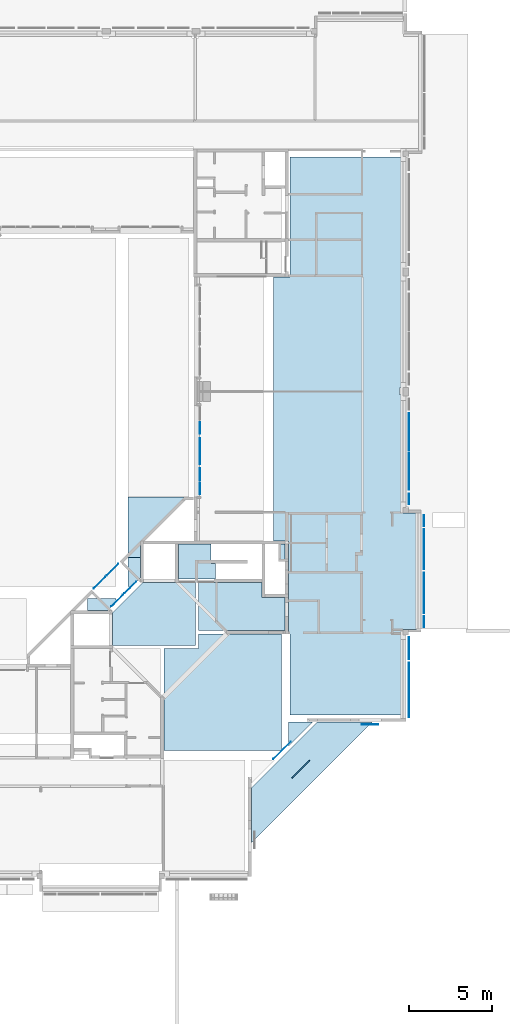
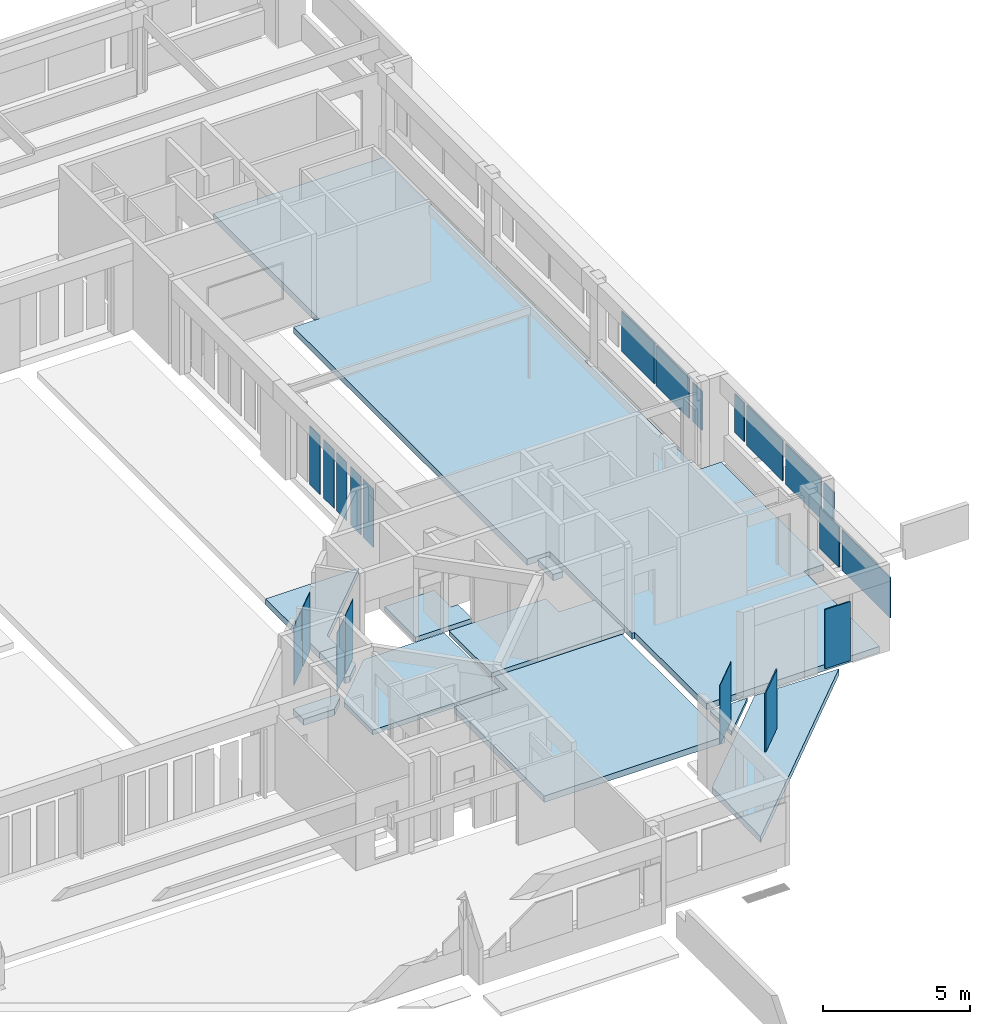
# One storey, part 7 of 30: 21 plates, 11 slabs.
"""IFC4X3_ADD2 building model written with IfcOpenShell, lengths in millimetres."""

from ifc_helpers import new_model, si_unit, direction, frame, frame_2d, origin_with_axes, origin_2d_with_axis, place, context, subcontext, project, spatial, polyline, rectangle, outline, extrude, clip, bounded_halfspace, source, transform, mapped, material, type_object, element, save


model = new_model("IFC4X3_ADD2")

# Units and contexts
model_context = context("Model", 3, precision=1e-05, world=origin_with_axes(), true_north=direction((0.0, 1.0)))
body_context = subcontext(model_context, "Body", "Model", "MODEL_VIEW")
ifc_project = project(units=[si_unit("LENGTHUNIT", "METRE", prefix="MILLI"), si_unit("AREAUNIT", "SQUARE_METRE"), si_unit("VOLUMEUNIT", "CUBIC_METRE"), si_unit("PLANEANGLEUNIT", "RADIAN"), si_unit("TIMEUNIT", "SECOND"), si_unit("MASSUNIT", "GRAM")], contexts=[model_context])

# Site, building, storey
site_placement = place(None, origin_with_axes())
site = spatial("IfcSite", under=ifc_project, at=site_placement, Name="Site", CompositionType="ELEMENT")
building_placement = place(site_placement, origin_with_axes())
building = spatial("IfcBuilding", under=site, at=building_placement, Name="IFC Building Story")
storey_placement = place(building_placement, origin_with_axes())
storey = spatial("IfcBuildingStorey", under=building, at=storey_placement, Name="000", Elevation=0.0)

# Slabs
ifc_material_1 = material(Name="BB_Beton_Bestaand")
slab_type_1 = type_object("IfcSlabType", Name="BB_Beton_Bestaand 200", PredefinedType="FLOOR", material=ifc_material_1)
slab_1_placement = place(storey_placement, frame((-12409.99999999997, 14699.99999999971, -280.0), z_axis=(0.0, 0.0, 1.0), x_axis=(1.0, 0.0, 0.0)))
element("IfcSlab", 1, at=slab_1_placement, inside=storey, type_object=slab_type_1, Name="Floor:BB_XX_Vloer uit beton, 200 mm", ObjectType="Floor:BB_XX_Vloer uit beton, 200 mm", PredefinedType="FLOOR", context=body_context, shape_type="SweptSolid", body=[
    extrude(outline(polyline([(2203.333333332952, 366.6666666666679), (2203.333333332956, -1633.333333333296), (-3006.666666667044, -1633.333333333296), (-3006.66666666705, 1266.666666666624), (803.3333333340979, 1266.666666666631), (803.3333333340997, 366.6666666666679), (2203.333333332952, 366.6666666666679)])), frame((3006.66666666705, 1633.333333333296, 0.0), z_axis=(0.0, 0.0, 1.0), x_axis=(1.0, 0.0, 0.0)), (0.0, 0.0, 1.0), 200.0),
])
slab_2_placement = place(storey_placement, frame((-17599.99999999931, 13814.99999999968, -300.0), z_axis=(0.0, 0.0, 1.0), x_axis=(1.0, 0.0, 0.0)))
element("IfcSlab", 2, at=slab_2_placement, inside=storey, type_object=slab_type_1, Name="Floor:BB_XX_Vloer uit beton, 200 mm", ObjectType="Floor:BB_XX_Vloer uit beton, 200 mm", PredefinedType="FLOOR", context=body_context, shape_type="SweptSolid", body=[
    extrude(outline(polyline([(2634.715728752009, 1879.284271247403), (2634.715728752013, -1905.715728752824), (-2365.284271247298, -1905.715728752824), (-2365.284271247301, 52.86291501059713), (-538.8629150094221, 1879.284271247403), (2634.715728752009, 1879.284271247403)])), frame((2365.284271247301, 1905.715728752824, 0.0), z_axis=(0.0, 0.0, 1.0), x_axis=(1.0, 0.0, 0.0)), (0.0, 0.0, 1.0), 200.0),
])
slab_3_placement = place(storey_placement, frame((-13614.99999999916, 17799.99999999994, -250.0), z_axis=(0.0, 0.0, 1.0), x_axis=(1.0, 0.0, 0.0)))
element("IfcSlab", 3, at=slab_3_placement, inside=storey, type_object=slab_type_1, Name="Floor:BB_XX_Vloer uit beton, 200 mm", ObjectType="Floor:BB_XX_Vloer uit beton, 200 mm", PredefinedType="FLOOR", context=body_context, shape_type="SweptSolid", body=[
    extrude(outline(polyline([(831.6666666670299, -66.66666666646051), (831.666666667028, -1016.666666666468), (-1393.333333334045, -1016.666666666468), (-1393.333333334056, 1083.333333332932), (561.6666666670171, 1083.333333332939), (561.6666666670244, -66.66666666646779), (831.6666666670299, -66.66666666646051)])), frame((1393.333333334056, 1016.666666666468, 0.0), z_axis=(0.0, 0.0, 1.0), x_axis=(1.0, 0.0, 0.0)), (0.0, 0.0, 1.0), 200.0),
])

# Plates
ifc_material_2 = material(Name="BB_Glas")
shared_shape_1 = source(origin_with_axes(), body_context, "Body", "SweptSolid", [
    extrude(rectangle(XDim=1602.000000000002, YDim=652.000000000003, at=frame_2d((0.0, 0.0), x_axis=(0.0, 1.0))), frame((0.0, 0.0, -44.0), z_axis=(0.0, 0.0, 1.0), x_axis=(1.0, 0.0, 0.0)), (0.0, 0.0, 1.0), 44.0),
])
for number, where, z_axis, x_axis in (
    (4, (1187.50000000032, 15244.0, 1765.0), (1.0, 0.0, 0.0), (0.0, 1.0, 0.0)),
    (5, (1187.50000000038, 21316.0, 1765.0), (1.0, 0.0, 0.0), (0.0, 1.0, 0.0)),
):
    element("IfcPlate", number, at=place(storey_placement, frame(where, z_axis=z_axis, x_axis=x_axis)), inside=storey, material=ifc_material_2, Name="BB_07.06_Buitenbeglazing, rechthoekig_GMO:07.06.72#02_Drievoudige beglazing, 44 mm, A/A*/P4A RC2, -1 en +0", ObjectType="BB_07.06_Buitenbeglazing, rechthoekig_GMO:07.06.72#02_Drievoudige beglazing, 44 mm, A/A*/P4A RC2, -1 en +0", PredefinedType="USERDEFINED", context=body_context, shape_type="MappedRepresentation", body=[
        mapped(shared_shape_1, transform((0.0, 0.0, 0.0))),
    ])
shared_shape_2 = source(origin_with_axes(), body_context, "Body", "SweptSolid", [
    extrude(rectangle(XDim=2432.0, YDim=1680.000000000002, at=origin_2d_with_axis()), frame((0.0, 0.0, -44.0), z_axis=(0.0, 0.0, 1.0), x_axis=(1.0, 0.0, 0.0)), (0.0, 0.0, 1.0), 44.0),
])
for number, where, z_axis, x_axis in (
    (6, (1187.50000000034, 16964.0, 1765.0), (1.0, 0.0, 0.0), (0.0, 1.0, 0.0)),
    (7, (1187.50000000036, 19596.0, 1765.0), (1.0, 0.0, 0.0), (0.0, 1.0, 0.0)),
):
    element("IfcPlate", number, at=place(storey_placement, frame(where, z_axis=z_axis, x_axis=x_axis)), inside=storey, material=ifc_material_2, Name="BB_07.06_Buitenbeglazing, rechthoekig_GMO:07.06.72#02_Drievoudige beglazing, 44 mm, A/A*/P4A RC2, -1 en +0", ObjectType="BB_07.06_Buitenbeglazing, rechthoekig_GMO:07.06.72#02_Drievoudige beglazing, 44 mm, A/A*/P4A RC2, -1 en +0", PredefinedType="USERDEFINED", context=body_context, shape_type="MappedRepresentation", body=[
        mapped(shared_shape_2, transform((0.0, 0.0, 0.0))),
    ])
shared_shape_3 = source(origin_with_axes(), body_context, "Body", "SweptSolid", [
    extrude(rectangle(XDim=1602.000000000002, YDim=652.0000000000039, at=frame_2d((0.0, 0.0), x_axis=(0.0, 1.0))), frame((0.0, 0.0, -44.0), z_axis=(0.0, 0.0, 1.0), x_axis=(1.0, 0.0, 0.0)), (0.0, 0.0, 1.0), 44.0),
])
plate_1_placement = place(storey_placement, frame((287.500000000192, 22624.0, 1765.0), z_axis=(1.0, 0.0, 0.0), x_axis=(0.0, -1.0, 0.0)))
element("IfcPlate", 8, at=plate_1_placement, inside=storey, material=ifc_material_2, Name="BB_07.06_Buitenbeglazing, rechthoekig_GMO:07.06.72#02_Drievoudige beglazing, 44 mm, A/A*/P4A RC2, -1 en +0", ObjectType="BB_07.06_Buitenbeglazing, rechthoekig_GMO:07.06.72#02_Drievoudige beglazing, 44 mm, A/A*/P4A RC2, -1 en +0", PredefinedType="USERDEFINED", context=body_context, shape_type="MappedRepresentation", body=[
    mapped(shared_shape_3, transform((0.0, 0.0, 0.0))),
])
shared_shape_4 = source(origin_with_axes(), body_context, "Body", "SweptSolid", [
    extrude(rectangle(XDim=2222.0, YDim=1680.000000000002, at=origin_2d_with_axis()), frame((0.0, 0.0, -44.0), z_axis=(0.0, 0.0, 1.0), x_axis=(1.0, 0.0, 0.0)), (0.0, 0.0, 1.0), 44.0),
])
for number, where, z_axis, x_axis in (
    (9, (287.500000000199, 26661.0, 1765.0), (1.0, 0.0, 0.0), (0.0, -1.0, 0.0)),
    (10, (287.500000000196, 24299.0, 1765.0), (1.0, 0.0, 0.0), (0.0, -1.0, 0.0)),
):
    element("IfcPlate", number, at=place(storey_placement, frame(where, z_axis=z_axis, x_axis=x_axis)), inside=storey, material=ifc_material_2, Name="BB_07.06_Buitenbeglazing, rechthoekig_GMO:07.06.72#02_Drievoudige beglazing, 44 mm, A/A*/P4A RC2, -1 en +0", ObjectType="BB_07.06_Buitenbeglazing, rechthoekig_GMO:07.06.72#02_Drievoudige beglazing, 44 mm, A/A*/P4A RC2, -1 en +0", PredefinedType="USERDEFINED", context=body_context, shape_type="MappedRepresentation", body=[
        mapped(shared_shape_4, transform((0.0, 0.0, 0.0))),
    ])
shared_shape_5 = source(origin_with_axes(), body_context, "Body", "SweptSolid", [
    extrude(rectangle(XDim=1680.000000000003, YDim=1332.600000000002, at=frame_2d((0.0, 0.0), x_axis=(0.0, 1.0))), frame((0.0, 0.0, -44.0), z_axis=(0.0, 0.0, 1.0), x_axis=(1.0, 0.0, 0.0)), (0.0, 0.0, 1.0), 44.0),
])
plate_2_placement = place(storey_placement, frame((287.500000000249, 13643.2000000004, 1765.0), z_axis=(1.0, 0.0, 0.0), x_axis=(0.0, -1.0, 0.0)))
element("IfcPlate", 11, at=plate_2_placement, inside=storey, material=ifc_material_2, Name="BB_07.06_Buitenbeglazing, rechthoekig_GMO:07.06.72#02_Drievoudige beglazing, 44 mm, A/A*/P4A RC2, -1 en +0", ObjectType="BB_07.06_Buitenbeglazing, rechthoekig_GMO:07.06.72#02_Drievoudige beglazing, 44 mm, A/A*/P4A RC2, -1 en +0", PredefinedType="USERDEFINED", context=body_context, shape_type="MappedRepresentation", body=[
    mapped(shared_shape_5, transform((0.0, 0.0, 0.0))),
])
shared_shape_6 = source(origin_with_axes(), body_context, "Body", "SweptSolid", [
    extrude(rectangle(XDim=3286.4, YDim=1680.000000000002, at=origin_2d_with_axis()), frame((0.0, 0.0, -44.0), z_axis=(0.0, 0.0, 1.0), x_axis=(1.0, 0.0, 0.0)), (0.0, 0.0, 1.0), 44.0),
])
plate_3_placement = place(storey_placement, frame((287.500000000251, 11133.7000000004, 1765.0), z_axis=(1.0, 0.0, 0.0), x_axis=(0.0, -1.0, 0.0)))
element("IfcPlate", 12, at=plate_3_placement, inside=storey, material=ifc_material_2, Name="BB_07.06_Buitenbeglazing, rechthoekig_GMO:07.06.72#02_Drievoudige beglazing, 44 mm, A/A*/P4A RC2, -1 en +0", ObjectType="BB_07.06_Buitenbeglazing, rechthoekig_GMO:07.06.72#02_Drievoudige beglazing, 44 mm, A/A*/P4A RC2, -1 en +0", PredefinedType="USERDEFINED", context=body_context, shape_type="MappedRepresentation", body=[
    mapped(shared_shape_6, transform((0.0, 0.0, 0.0))),
])
ifc_material_3 = material(Name="BB_Metaal_Aluminium_Buitenschrijnwerk")
shared_shape_7 = source(origin_with_axes(), body_context, "Body", "SweptSolid", [
    extrude(rectangle(XDim=2458.0, YDim=994.000000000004, at=frame_2d((0.0, 0.0), x_axis=(0.0, 1.0))), frame((0.0, 0.0, -44.0), z_axis=(0.0, 0.0, 1.0), x_axis=(1.0, 0.0, 0.0)), (0.0, 0.0, 1.0), 44.0),
])
plate_4_placement = place(storey_placement, frame((-2085.0, 9022.50000000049, 1321.0), z_axis=(0.0, -1.0, 0.0), x_axis=(1.0, 0.0, 0.0)))
element("IfcPlate", 13, at=plate_4_placement, inside=storey, material=ifc_material_3, Name="BB_07.06_Buitenbeglazing, rechthoekig_GMO:07.04.63#01_Vulpaneel, 44 mm", ObjectType="BB_07.06_Buitenbeglazing, rechthoekig_GMO:07.04.63#01_Vulpaneel, 44 mm", PredefinedType="USERDEFINED", context=body_context, shape_type="MappedRepresentation", body=[
    mapped(shared_shape_7, transform((0.0, 0.0, 0.0))),
])
shared_shape_8 = source(origin_with_axes(), body_context, "Body", "SweptSolid", [
    extrude(rectangle(XDim=2433.0, YDim=713.500000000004, at=frame_2d((0.0, 0.0), x_axis=(0.0, 1.0))), frame((0.0, 0.0, -17.0), z_axis=(0.0, 0.0, 1.0), x_axis=(1.0, 0.0, 0.0)), (0.0, 0.0, 1.0), 17.0),
])
for number, where, z_axis, x_axis in (
    (14, (-12321.5000000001, 24107.2500000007, 1344.0), (-1.0, 0.0, 0.0), (0.0, 1.0, 0.0)),
    (15, (-12321.5000000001, 23252.7500000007, 1344.0), (-1.0, 0.0, 0.0), (0.0, 1.0, 0.0)),
    (16, (-12321.5000000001, 25072.7500000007, 1344.0), (-1.0, 0.0, 0.0), (0.0, 1.0, 0.0)),
    (17, (-12321.5000000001, 25927.2500000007, 1344.0), (-1.0, 0.0, 0.0), (0.0, 1.0, 0.0)),
    (18, (-12321.5000000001, 26892.7500000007, 1344.0), (-1.0, 0.0, 0.0), (0.0, 1.0, 0.0)),
):
    element("IfcPlate", number, at=place(storey_placement, frame(where, z_axis=z_axis, x_axis=x_axis)), inside=storey, material=ifc_material_2, Name="BB_10.10_Binnenbeglazing, rechthoekig_GMO:10.10.32#02_Enkelvoudige beglazing, 2B2, 40dB", ObjectType="BB_10.10_Binnenbeglazing, rechthoekig_GMO:10.10.32#02_Enkelvoudige beglazing, 2B2, 40dB", PredefinedType="USERDEFINED", context=body_context, shape_type="MappedRepresentation", body=[
        mapped(shared_shape_8, transform((0.0, 0.0, 0.0))),
    ])
shared_shape_9 = source(origin_with_axes(), body_context, "Body", "SweptSolid", [
    extrude(rectangle(XDim=2464.0, YDim=1477.000000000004, at=frame_2d((0.0, 0.0), x_axis=(0.0, 1.0))), frame((0.0, 0.0, -44.0), z_axis=(0.0, 0.0, 1.0), x_axis=(1.0, 0.0, 0.0)), (0.0, 0.0, 1.0), 44.0),
])
plate_5_placement = place(storey_placement, frame((-6263.94306525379, 6369.30197565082, 1271.0), z_axis=(-0.7071067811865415, 0.7071067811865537, 0.0), x_axis=(0.7071067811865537, 0.7071067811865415, 0.0)))
element("IfcPlate", 19, at=plate_5_placement, inside=storey, material=ifc_material_2, Name="BB_07.06_Buitenbeglazing, rechthoekig_GMO:07.06.72#04_Drievoudige beglazing, 44 mm, 2B2/A*/2B2, inkom gordijngevel", ObjectType="BB_07.06_Buitenbeglazing, rechthoekig_GMO:07.06.72#04_Drievoudige beglazing, 44 mm, 2B2/A*/2B2, inkom gordijngevel", PredefinedType="USERDEFINED", context=body_context, shape_type="MappedRepresentation", body=[
    mapped(shared_shape_9, transform((0.0, 0.0, 0.0))),
])
shared_shape_10 = source(origin_with_axes(), body_context, "Body", "SweptSolid", [
    extrude(rectangle(XDim=2464.0, YDim=1477.000000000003, at=frame_2d((0.0, 0.0), x_axis=(0.0, 1.0))), frame((0.0, 0.0, -17.0), z_axis=(0.0, 0.0, 1.0), x_axis=(1.0, 0.0, 0.0)), (0.0, 0.0, 1.0), 17.0),
])
plate_6_placement = place(storey_placement, frame((-7379.47472325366, 7484.8336336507, 1271.0), z_axis=(0.7071067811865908, -0.7071067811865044, 0.0), x_axis=(0.7071067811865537, 0.7071067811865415, 0.0)))
element("IfcPlate", 20, at=plate_6_placement, inside=storey, material=ifc_material_2, Name="BB_10.10_Binnenbeglazing, rechthoekig_GMO:10.10.32#01_Enkelvoudige beglazing, 2B2", ObjectType="BB_10.10_Binnenbeglazing, rechthoekig_GMO:10.10.32#01_Enkelvoudige beglazing, 2B2", PredefinedType="USERDEFINED", context=body_context, shape_type="MappedRepresentation", body=[
    mapped(shared_shape_10, transform((0.0, 0.0, 0.0))),
])
shared_shape_11 = source(origin_with_axes(), body_context, "Body", "SweptSolid", [
    extrude(rectangle(XDim=2455.0, YDim=985.500000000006, at=frame_2d((0.0, 0.0), x_axis=(0.0, 1.0))), frame((0.0, 0.0, -20.0), z_axis=(0.0, 0.0, 1.0), x_axis=(1.0, 0.0, 0.0)), (0.0, 0.0, 1.0), 20.0),
])
for number, where, z_axis, x_axis, name in (
    (21, (-17574.2903545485, 18364.1800226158, 1307.50000000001), (0.7071067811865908, -0.7071067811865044, 0.0), (-0.7071067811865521, -0.707106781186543, 0.0), "BB_07.06_Buitenbeglazing, rechthoekig_GMO:Enkel gelaagd, 20 mm"),
    (22, (-18363.7750757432, 17574.695301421, 1307.49999999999), (0.7071067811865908, -0.7071067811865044, 0.0), (-0.7071067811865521, -0.707106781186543, 0.0), "BB_07.06_Buitenbeglazing, rechthoekig_GMO:Enkel gelaagd, 20 mm"),
    (23, (-16502.2427413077, 17292.132409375, 1307.50000000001), (0.7071067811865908, -0.7071067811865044, 0.0), (-0.7071067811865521, -0.707106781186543, 0.0), "BB_07.06_Buitenbeglazing, rechthoekig_GMO:Enkel gelaagd, 20 mm"),
    (24, (-17291.7274625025, 16502.6476881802, 1307.49999999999), (0.7071067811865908, -0.7071067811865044, 0.0), (-0.7071067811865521, -0.707106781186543, 0.0), "BB_07.06_Buitenbeglazing, rechthoekig_GMO:Enkel gelaagd, 20 mm"),
):
    element("IfcPlate", number, at=place(storey_placement, frame(where, z_axis=z_axis, x_axis=x_axis)), inside=storey, material=ifc_material_2, Name=name, ObjectType="BB_07.06_Buitenbeglazing, rechthoekig_GMO:Enkel gelaagd, 20 mm", PredefinedType="USERDEFINED", context=body_context, shape_type="MappedRepresentation", body=[
        mapped(shared_shape_11, transform((0.0, 0.0, 0.0))),
    ])

# Slabs
slab_type_2 = type_object("IfcSlabType", Name="BB_Beton_Bestaand 260", PredefinedType="FLOOR", material=ifc_material_1)
slab_4_placement = place(storey_placement, frame((-7900.0, 43199.9999999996, -460.0), z_axis=(0.0, 0.0, 1.0), x_axis=(0.0, -1.0, 0.0)))
element("IfcSlab", 25, at=slab_4_placement, inside=storey, type_object=slab_type_2, Name="Floor:BB_XX_Vloer welfsels, 260 mm", ObjectType="Floor:BB_XX_Vloer welfsels, 260 mm", PredefinedType="FLOOR", context=body_context, shape_type="SweptSolid", body=[
    extrude(outline(polyline([(9741.666666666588, -3799.99999999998), (4141.66666666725, -3799.99999999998), (4141.66666666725, -4700.0), (-11758.3333333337, -4700.0), (-11758.3333333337, -3700.00000000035), (-18958.33333333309, -3700.00000000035), (-18958.33333333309, 3004.99999999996), (-5058.333333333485, 3004.99999999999), (-5058.333333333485, 2880.00000000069), (-4658.333333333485, 2880.00000000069), (-4658.333333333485, 3004.99999999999), (2456.66666666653, 3005.0), (2456.66666666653, 3904.99999999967), (9466.666666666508, 3904.99999999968), (9466.666666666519, 3105.0), (14626.66666666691, 3105.00000000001), (14626.66666666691, -3700.00000000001), (9741.666666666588, -3700.00000000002), (9741.666666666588, -3799.99999999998)])), frame((18958.33333333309, 4700.0, 0.0), z_axis=(0.0, 0.0, 1.0), x_axis=(1.0, 0.0, 0.0)), (0.0, 0.0, 1.0), 260.0),
])
slab_5_placement = place(storey_placement, frame((-19096.4954267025, 15915.0, -660.0), z_axis=(0.0, 0.0, 1.0), x_axis=(1.0, 0.0, 0.0)))
element("IfcSlab", 26, at=slab_5_placement, inside=storey, type_object=slab_type_2, Name="Floor:BB_XX_Vloer uit beton, 260 mm:2", ObjectType="Floor:BB_XX_Vloer uit beton, 260 mm", PredefinedType="FLOOR", context=body_context, shape_type="SweptSolid", body=[
    extrude(outline(polyline([(276.3240007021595, -394.5685424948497), (-937.3287135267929, -394.5685424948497), (-937.3287135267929, 330.4314575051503), (799.1667131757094, 330.4314575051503), (799.1667131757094, 128.2741699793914), (276.3240007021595, -394.5685424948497)])), frame((937.3287135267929, 394.5685424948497, 0.0), z_axis=(0.0, 0.0, 1.0), x_axis=(1.0, 0.0, 0.0)), (0.0, 0.0, 1.0), 260.0),
])
slab_6_placement = place(storey_placement, frame((-3580.618330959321, 10869.62986797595, -510.0593474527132), z_axis=(0.01510567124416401, -0.01510567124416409, 0.9997717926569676), x_axis=(-0.7071067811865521, -0.707106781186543, 0.0)))
element("IfcSlab", 27, at=slab_6_placement, inside=storey, type_object=slab_type_2, Name="Floor:BB_XX_Vloer uit beton, 260 mm", ObjectType="Floor:BB_XX_Vloer uit beton, 260 mm", PredefinedType="FLOOR", context=body_context, shape_type="Clipping", body=[
    clip(clip(clip(clip(extrude(outline(polyline([(5154.10948597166, 783.8817460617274), (5154.109485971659, 778.32619050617), (2814.10948597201, -1562.207936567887), (-2814.109485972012, -1562.207936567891), (-5154.109485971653, 778.3261905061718), (-5154.109485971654, 783.8817460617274), (5154.10948597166, 783.8817460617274)])), frame((5154.109485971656, 1555.584248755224, 49.9885896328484), z_axis=(0.0, 0.0, 1.0), x_axis=(1.0, 0.0, 0.0)), (0.0, 0.0, 1.0), 260.0), bounded_halfspace(frame((5154.109485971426, 2328.569777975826, 559.9315377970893), z_axis=(0.0, 0.9997717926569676, 0.0213626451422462), x_axis=(-1.0, 0.0, 0.0)), False, frame((5154.109485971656, 1555.584248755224, 49.9885896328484), z_axis=(0.0, 0.0, 1.0), x_axis=(1.0, 0.0, 0.0)), polyline([(5154.10948597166, 783.8817460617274), (-5154.109485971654, 783.8817460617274), (-5154.109485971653, 778.3261905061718), (5154.109485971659, 778.32619050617), (5154.10948597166, 783.8817460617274)]))), bounded_halfspace(frame((-1361.879502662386, 3690.138489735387, 589.0248863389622), z_axis=(-0.7071067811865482, -0.706945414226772, -0.01510567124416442), x_axis=(0.7071067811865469, -0.7069454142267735, -0.01510567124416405)), False, frame((5154.109485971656, 1555.584248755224, 49.9885896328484), z_axis=(0.0, 0.0, 1.0), x_axis=(1.0, 0.0, 0.0)), polyline([(-5154.109485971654, 783.8817460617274), (-2814.109485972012, -1556.652381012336), (-2814.109485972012, -1562.207936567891), (-5154.109485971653, 778.3261905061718), (-5154.109485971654, 783.8817460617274)]))), bounded_halfspace(frame((5154.109485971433, -10.89621684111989, 509.9429481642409), z_axis=(0.0, -0.9997717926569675, -0.02136264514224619), x_axis=(1.0, 0.0, 0.0)), False, frame((5154.109485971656, 1555.584248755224, 49.9885896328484), z_axis=(0.0, 0.0, 1.0), x_axis=(1.0, 0.0, 0.0)), polyline([(-2814.109485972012, -1556.652381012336), (2814.109485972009, -1556.652381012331), (2814.10948597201, -1562.207936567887), (-2814.109485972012, -1562.207936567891), (-2814.109485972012, -1556.652381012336)]))), bounded_halfspace(frame((11670.09847460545, 3690.138489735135, 589.0248863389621), z_axis=(0.7071067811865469, -0.7069454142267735, -0.01510567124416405), x_axis=(0.7071067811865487, 0.7069454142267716, 0.01510567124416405)), False, frame((5154.109485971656, 1555.584248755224, 49.9885896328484), z_axis=(0.0, 0.0, 1.0), x_axis=(1.0, 0.0, 0.0)), polyline([(2814.109485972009, -1556.652381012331), (5154.10948597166, 783.8817460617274), (5154.109485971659, 778.32619050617), (2814.10948597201, -1562.207936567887), (2814.109485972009, -1556.652381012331)]))),
])
slab_7_placement = place(storey_placement, frame((-14500.00000000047, 7500.00000000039, -360.0), z_axis=(0.0, 0.0, 1.0), x_axis=(1.0, 0.0, 0.0)))
element("IfcSlab", 28, at=slab_7_placement, inside=storey, type_object=slab_type_2, Name="Floor:BB_XX_Vloer uit beton, 260 mm", ObjectType="Floor:BB_XX_Vloer uit beton, 260 mm", PredefinedType="FLOOR", context=body_context, shape_type="SweptSolid", body=[
    extrude(outline(polyline([(4036.666666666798, 2624.999999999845), (4036.666666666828, -4374.999999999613), (-3063.333333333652, -4374.999999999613), (-3063.333333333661, 1749.999999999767), (-973.3333333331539, 1749.999999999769), (-973.3333333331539, 2624.999999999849), (4036.666666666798, 2624.999999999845)])), frame((3063.333333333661, 4374.999999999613, 0.0), z_axis=(0.0, 0.0, 1.0), x_axis=(1.0, 0.0, 0.0)), (0.0, 0.0, 1.0), 260.0),
])
slab_8_placement = place(storey_placement, frame((-7590.000000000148, 19899.99999999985, -460.0), z_axis=(0.0, 0.0, 1.0), x_axis=(0.0, -1.0, 0.0)))
element("IfcSlab", 29, at=slab_8_placement, inside=storey, type_object=slab_type_2, Name="Floor:BB_XX_Vloer uit beton, 260 mm", ObjectType="Floor:BB_XX_Vloer uit beton, 260 mm", PredefinedType="FLOOR", context=body_context, shape_type="SweptSolid", body=[
    extrude(rectangle(XDim=1039.999999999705, YDim=390.0000000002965, at=frame_2d((0.0, 0.0), x_axis=(-1.0, 0.0))), frame((519.9999999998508, 195.0000000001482, 0.0), z_axis=(0.0, 0.0, 1.0), x_axis=(1.0, 0.0, 0.0)), (0.0, 0.0, 1.0), 260.0),
])
slab_9_placement = place(storey_placement, frame((-16640.0, 19095.40033870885, -660.0), z_axis=(0.0, 0.0, 1.0), x_axis=(0.0, -1.0, 0.0)))
element("IfcSlab", 30, at=slab_9_placement, inside=storey, type_object=slab_type_2, Name="Floor:BB_XX_Vloer uit beton, 260 mm:2", ObjectType="Floor:BB_XX_Vloer uit beton, 260 mm", PredefinedType="FLOOR", context=body_context, shape_type="SweptSolid", body=[
    extrude(outline(polyline([(-936.6716607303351, -330.4314575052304), (-936.6716607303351, 394.5685424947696), (275.8859655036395, 394.5685424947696), (798.7286779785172, -128.2741699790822), (798.7286779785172, -330.4314575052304), (-936.6716607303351, -330.4314575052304)])), frame((936.6716607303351, 330.4314575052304, 0.0), z_axis=(0.0, 0.0, 1.0), x_axis=(1.0, 0.0, 0.0)), (0.0, 0.0, 1.0), 260.0),
])
slab_10_placement = place(storey_placement, frame((-14805.44650505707, 24585.61167123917, -660.0), z_axis=(0.0, 0.0, 1.0), x_axis=(-0.707866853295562, -0.706345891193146, 0.0)))
element("IfcSlab", 31, at=slab_10_placement, inside=storey, type_object=slab_type_2, Name="Floor:BB_XX_Vloer uit beton, 260 mm", ObjectType="Floor:BB_XX_Vloer uit beton, 260 mm", PredefinedType="FLOOR", context=body_context, shape_type="SweptSolid", body=[
    extrude(outline(polyline([(832.0647531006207, 413.0337554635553), (1347.468962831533, 929.5477759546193), (1860.67243147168, 417.4470048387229), (-724.2707526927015, -2173.062291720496), (-3315.935394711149, 413.0337554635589), (832.0647531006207, 413.0337554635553)])), frame((3315.935394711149, 2173.062291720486, 0.0), z_axis=(0.0, 0.0, 1.0), x_axis=(1.0, 0.0, 0.0)), (0.0, 0.0, 1.0), 260.0),
])
slab_type_3 = type_object("IfcSlabType", Name="BB_Beton_Bestaand 150", PredefinedType="FLOOR", material=ifc_material_1)
slab_11_placement = place(storey_placement, frame((-6259.045455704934, 9955.954544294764, -350.0), z_axis=(0.0, 0.0, 1.0), x_axis=(-0.7071067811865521, -0.707106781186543, 0.0)))
element("IfcSlab", 32, at=slab_11_placement, inside=storey, type_object=slab_type_3, Name="Floor:BB_XX_Vloer uit beton, 150 mm", ObjectType="Floor:BB_XX_Vloer uit beton, 150 mm", PredefinedType="FLOOR", context=body_context, shape_type="SweptSolid", body=[
    extrude(outline(polyline([(0.0, -698.5786437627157), (-1047.867965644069, 349.2893218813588), (1047.867965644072, 349.2893218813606), (0.0, -698.5786437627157)])), frame((1047.86796564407, 698.5786437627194, 0.0), z_axis=(0.0, 0.0, 1.0), x_axis=(1.0, 0.0, 0.0)), (0.0, 0.0, 1.0), 150.0),
])

save(model, "model.ifc")
